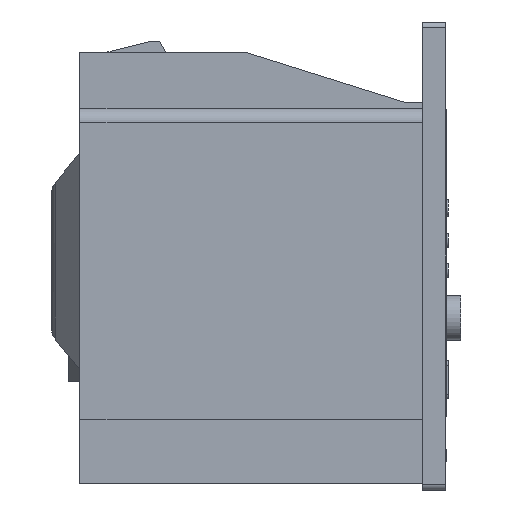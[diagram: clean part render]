
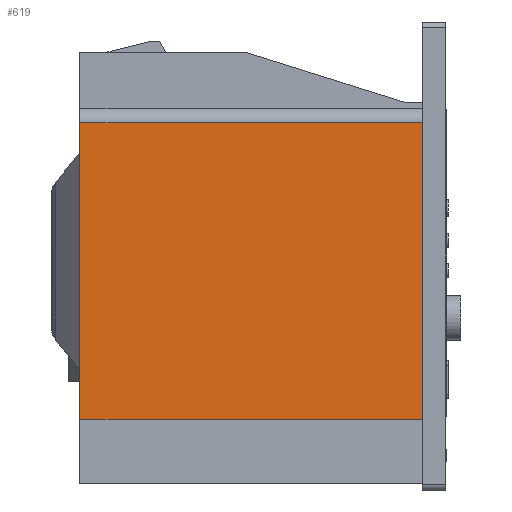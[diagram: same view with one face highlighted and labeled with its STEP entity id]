
A CAD part, left-side view. The second image highlights one B-rep face of the part: STEP entity #619.
In plain terms, the highlighted planar face has unit normal (-1, 0, 0).
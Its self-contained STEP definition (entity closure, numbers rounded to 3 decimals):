
#380=PLANE('',#3959);
#619=ADVANCED_FACE('',(#885),#380,.F.);
#885=FACE_OUTER_BOUND('',#1108,.T.);
#1108=EDGE_LOOP('',(#2461,#2462,#2463,#2464));
#1409=LINE('',#6015,#1753);
#1422=LINE('',#6042,#1766);
#1423=LINE('',#6044,#1767);
#1424=LINE('',#6046,#1768);
#1753=VECTOR('',#4667,1.);
#1766=VECTOR('',#4686,1.);
#1767=VECTOR('',#4687,1.);
#1768=VECTOR('',#4688,1.);
#2461=ORIENTED_EDGE('',*,*,#3469,.F.);
#2462=ORIENTED_EDGE('',*,*,#3483,.T.);
#2463=ORIENTED_EDGE('',*,*,#3484,.T.);
#2464=ORIENTED_EDGE('',*,*,#3485,.F.);
#3055=VERTEX_POINT('',#6014);
#3056=VERTEX_POINT('',#6016);
#3067=VERTEX_POINT('',#6043);
#3068=VERTEX_POINT('',#6045);
#3469=EDGE_CURVE('',#3055,#3056,#1409,.T.);
#3483=EDGE_CURVE('',#3055,#3067,#1422,.T.);
#3484=EDGE_CURVE('',#3067,#3068,#1423,.T.);
#3485=EDGE_CURVE('',#3056,#3068,#1424,.T.);
#3959=AXIS2_PLACEMENT_3D('',#6047,#4689,#4690);
#4667=DIRECTION('',(0.,0.,-1.));
#4686=DIRECTION('',(0.,1.,0.));
#4687=DIRECTION('',(0.,0.,-1.));
#4688=DIRECTION('',(0.,1.,0.));
#4689=DIRECTION('',(1.,0.,0.));
#4690=DIRECTION('',(0.,0.,-1.));
#6014=CARTESIAN_POINT('',(-231.6,-145.9,123.6));
#6015=CARTESIAN_POINT('',(-231.6,-145.9,141.2));
#6016=CARTESIAN_POINT('',(-231.6,-145.9,-128.9));
#6042=CARTESIAN_POINT('',(-231.6,145.835,123.6));
#6043=CARTESIAN_POINT('',(-231.6,145.835,123.6));
#6044=CARTESIAN_POINT('',(-231.6,145.835,-51.354));
#6045=CARTESIAN_POINT('',(-231.6,145.835,-128.9));
#6046=CARTESIAN_POINT('',(-231.6,155.3,-128.9));
#6047=CARTESIAN_POINT('',(-231.6,155.3,-51.354));
